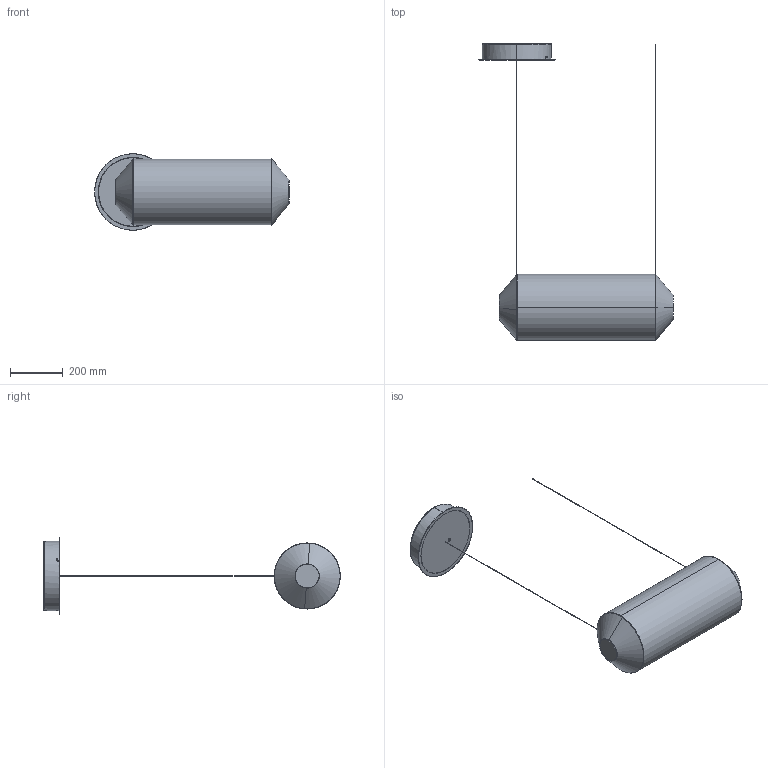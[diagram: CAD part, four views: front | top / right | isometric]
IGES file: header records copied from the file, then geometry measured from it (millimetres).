
Start section: SolidWorks IGES file using analytic representation for surfaces
Global section: file name: C:\Users\bernat.bisbal\Desktop\3D TEKIÒ WEB\TEKHP1.IGS; native system: SolidWorks 2016; preprocessor: SolidWorks 2016; author: bernat.bisbal; date: 180702.145132; units: millimetre
Bounding box: 739.31 x 1125.4 x 290 mm (x, y, z)
Surface area: 1428688.5 mm2 (no closed solid volume)
Topology: 0 solids, 0 shells, 128 faces, 2771 edges, 2771 vertices
Faces by surface type: revolution 83, bspline 45
